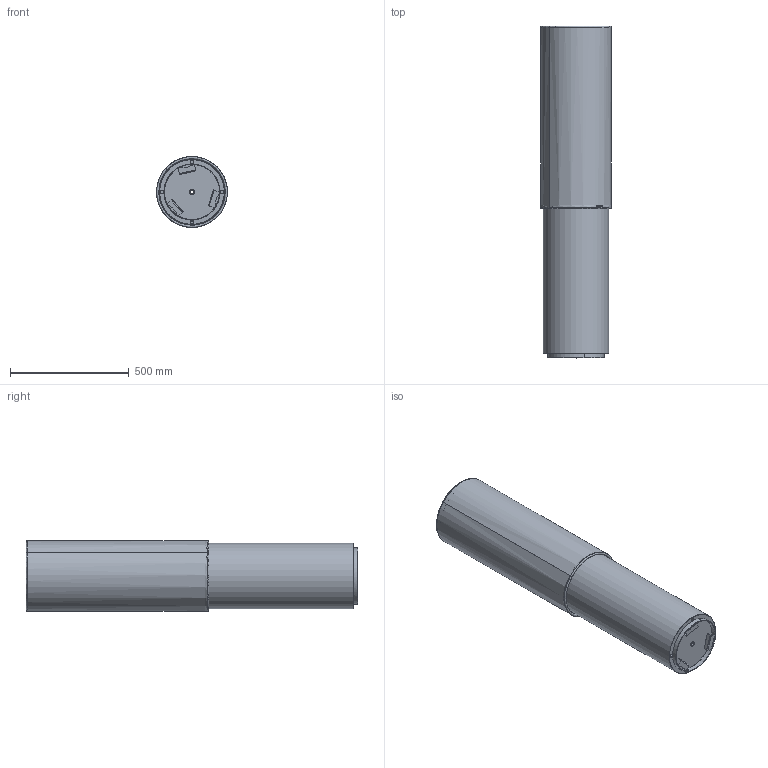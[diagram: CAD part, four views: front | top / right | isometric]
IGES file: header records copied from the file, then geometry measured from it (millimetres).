
Start section: SolidWorks IGES file using analytic representation for surfaces
Global section: file name: \\UTENTI\Dati Utenti\Tecnico\DC\2D - 3D per sito\3D\DeCastelli-3D-Phil 77.igs; native system: SolidWorks 2022; preprocessor: SolidWorks 2022; author: maria; date: 240725.084338; units: millimetre
Bounding box: 298.95 x 1400 x 298.95 mm (x, y, z)
Surface area: 2161926.2 mm2 (no closed solid volume)
Topology: 0 solids, 0 shells, 81 faces, 1882 edges, 1882 vertices
Faces by surface type: bspline 43, revolution 38
